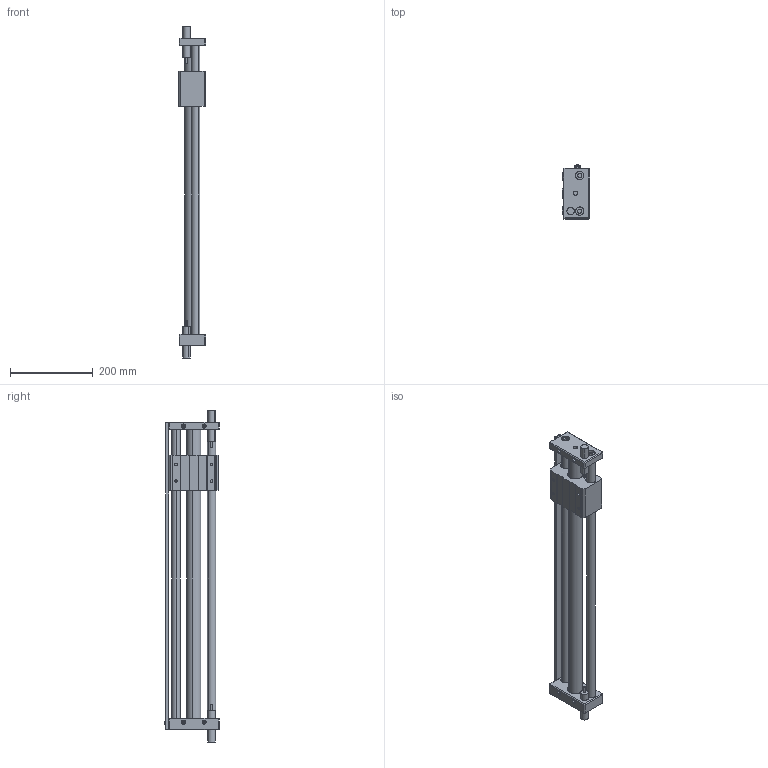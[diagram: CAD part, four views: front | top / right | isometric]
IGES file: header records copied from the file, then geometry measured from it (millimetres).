
Start section: SolidWorks IGES file using analytic representation for surfaces
Global section: file name: D:\Documents de SGA\Pieces 2D et 3D\GRU\iges\GRU 32.600.IGS; native system: SolidWorks 2010; preprocessor: SolidWorks 2010; author: SGA; date: 111216.134806; units: millimetre
Bounding box: 66 x 130.75 x 801.47 mm (x, y, z)
Surface area: 345403.2 mm2 (no closed solid volume)
Topology: 0 solids, 0 shells, 246 faces, 3800 edges, 3800 vertices
Faces by surface type: bspline 126, revolution 120
